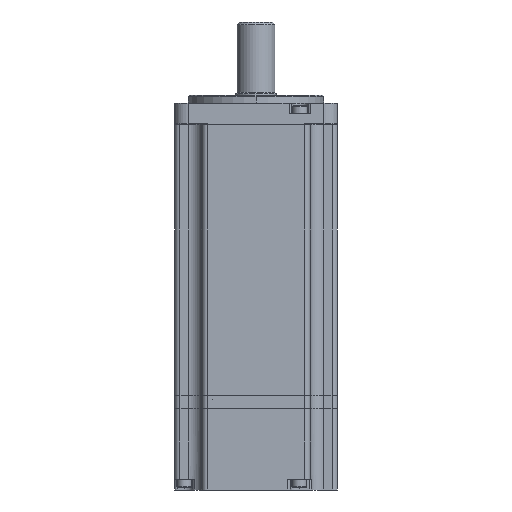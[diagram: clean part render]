
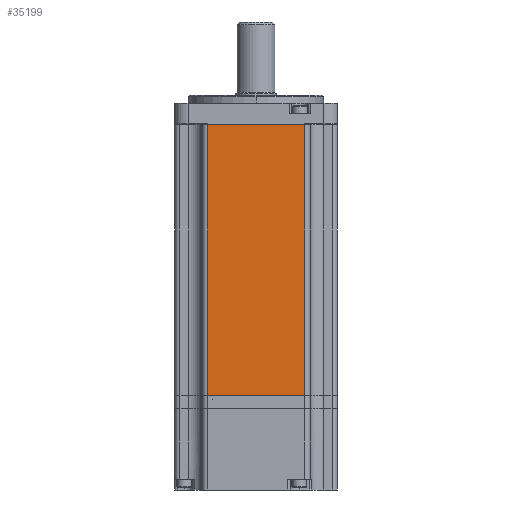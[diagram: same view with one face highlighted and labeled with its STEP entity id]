
A CAD part, front view. The second image highlights one B-rep face of the part: STEP entity #35199.
In plain terms, the highlighted planar face has unit normal (0, -1, 0).
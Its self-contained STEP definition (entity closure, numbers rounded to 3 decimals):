
#1106 = ORIENTED_EDGE ( 'NONE', *, *, #36663, .T. ) ;
#1108 = ORIENTED_EDGE ( 'NONE', *, *, #17324, .T. ) ;
#1110 = ORIENTED_EDGE ( 'NONE', *, *, #36645, .F. ) ;
#1112 = ORIENTED_EDGE ( 'NONE', *, *, #36753, .T. ) ;
#1847 = CARTESIAN_POINT ( 'NONE',  ( -20., -30.1, 100. ) ) ;
#1850 = DIRECTION ( 'NONE',  ( 1., 0., 0. ) ) ;
#1903 = DIRECTION ( 'NONE',  ( 1., 0., 0. ) ) ;
#1912 = CARTESIAN_POINT ( 'NONE',  ( -20., -30.1, 0. ) ) ;
#2207 = CARTESIAN_POINT ( 'NONE',  ( -18., -30.1, 100. ) ) ;
#2209 = DIRECTION ( 'NONE',  ( 0., 0., -1. ) ) ;
#3788 = LINE ( 'NONE', #1847, #3796 ) ;
#3796 = VECTOR ( 'NONE', #1850, 1000. ) ;
#3809 = LINE ( 'NONE', #1912, #3820 ) ;
#3820 = VECTOR ( 'NONE', #1903, 1000. ) ;
#3959 = LINE ( 'NONE', #2207, #3965 ) ;
#3965 = VECTOR ( 'NONE', #2209, 1000. ) ;
#12410 = CARTESIAN_POINT ( 'NONE',  ( -18., -30.1, 0. ) ) ;
#12420 = CARTESIAN_POINT ( 'NONE',  ( 18., -30.1, 0. ) ) ;
#12568 = CARTESIAN_POINT ( 'NONE',  ( 18., -30.1, 100. ) ) ;
#12688 = CARTESIAN_POINT ( 'NONE',  ( -18., -30.1, 100. ) ) ;
#17324 = EDGE_CURVE ( 'NONE', #40536, #40625, #39340, .T. ) ;
#21976 = EDGE_LOOP ( 'NONE', ( #1106, #1108, #1110, #1112 ) ) ;
#35199 = ADVANCED_FACE ( 'NONE', ( #42779 ), #44396, .F. ) ;
#36645 = EDGE_CURVE ( 'NONE', #40697, #40625, #3788, .T. ) ;
#36663 = EDGE_CURVE ( 'NONE', #40530, #40536, #3809, .T. ) ;
#36753 = EDGE_CURVE ( 'NONE', #40697, #40530, #3959, .T. ) ;
#39340 = LINE ( 'NONE', #41094, #39342 ) ;
#39342 = VECTOR ( 'NONE', #41095, 1000. ) ;
#40530 = VERTEX_POINT ( 'NONE', #12410 ) ;
#40536 = VERTEX_POINT ( 'NONE', #12420 ) ;
#40625 = VERTEX_POINT ( 'NONE', #12568 ) ;
#40697 = VERTEX_POINT ( 'NONE', #12688 ) ;
#41094 = CARTESIAN_POINT ( 'NONE',  ( 18., -30.1, 100. ) ) ;
#41095 = DIRECTION ( 'NONE',  ( 0., 0., 1. ) ) ;
#41988 = AXIS2_PLACEMENT_3D ( 'NONE', #44393, #44399, #44400 ) ;
#42779 = FACE_OUTER_BOUND ( 'NONE', #21976, .T. ) ;
#44393 = CARTESIAN_POINT ( 'NONE',  ( -20., -30.1, 100. ) ) ;
#44396 = PLANE ( 'NONE',  #41988 ) ;
#44399 = DIRECTION ( 'NONE',  ( 0., 1., 0. ) ) ;
#44400 = DIRECTION ( 'NONE',  ( 0., 0., 1. ) ) ;
